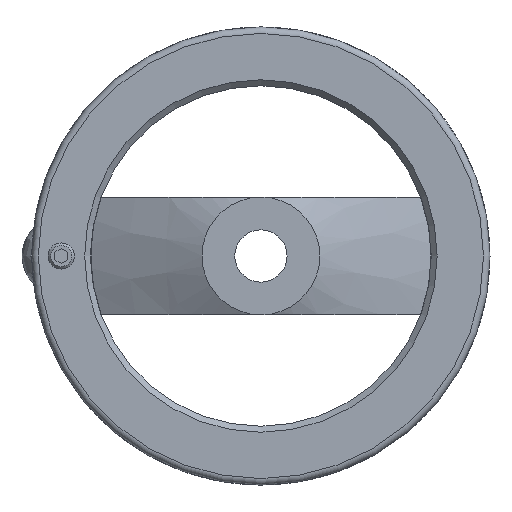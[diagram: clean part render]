
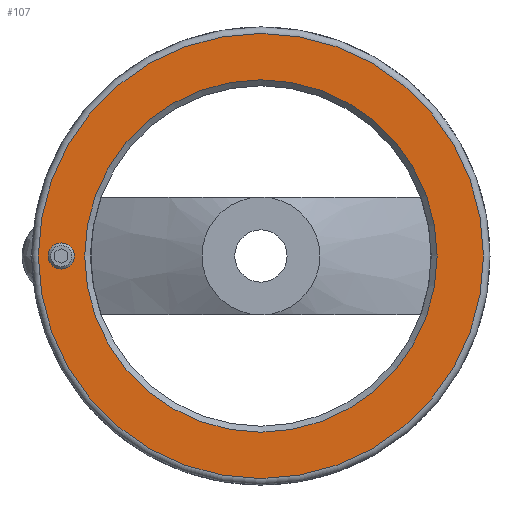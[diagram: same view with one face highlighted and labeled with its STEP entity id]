
A CAD part, left-side view. The second image highlights one B-rep face of the part: STEP entity #107.
In plain terms, the highlighted planar face has unit normal (-1, 0, 0).
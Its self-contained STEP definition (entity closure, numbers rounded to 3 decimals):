
#107 = ADVANCED_FACE( '', ( #199, #200, #201 ), #202, .T. );
#199 = FACE_OUTER_BOUND( '', #335, .T. );
#200 = FACE_BOUND( '', #336, .T. );
#201 = FACE_BOUND( '', #337, .T. );
#202 = PLANE( '', #338 );
#335 = EDGE_LOOP( '', ( #554 ) );
#336 = EDGE_LOOP( '', ( #555 ) );
#337 = EDGE_LOOP( '', ( #556 ) );
#338 = AXIS2_PLACEMENT_3D( '', #557, #558, #559 );
#554 = ORIENTED_EDGE( '', *, *, #657, .T. );
#555 = ORIENTED_EDGE( '', *, *, #624, .T. );
#556 = ORIENTED_EDGE( '', *, *, #658, .F. );
#557 = CARTESIAN_POINT( '', ( 19.5, -53.833, 0. ) );
#558 = DIRECTION( '', ( -1., 0., 0. ) );
#559 = DIRECTION( '', ( 0., 0., 1. ) );
#624 = EDGE_CURVE( '', #728, #728, #729, .T. );
#657 = EDGE_CURVE( '', #780, #780, #781, .T. );
#658 = EDGE_CURVE( '', #782, #782, #783, .T. );
#728 = VERTEX_POINT( '', #995 );
#729 = CIRCLE( '', #996, 4. );
#780 = VERTEX_POINT( '', #1059 );
#781 = CIRCLE( '', #1060, 68. );
#782 = VERTEX_POINT( '', #1061 );
#783 = CIRCLE( '', #1062, 53.833 );
#995 = CARTESIAN_POINT( '', ( 19.5, 61., -4. ) );
#996 = AXIS2_PLACEMENT_3D( '', #1105, #1106, #1107 );
#1059 = CARTESIAN_POINT( '', ( 19.5, 0., 68. ) );
#1060 = AXIS2_PLACEMENT_3D( '', #1177, #1178, #1179 );
#1061 = CARTESIAN_POINT( '', ( 19.5, 0., 53.833 ) );
#1062 = AXIS2_PLACEMENT_3D( '', #1180, #1181, #1182 );
#1105 = CARTESIAN_POINT( '', ( 19.5, 61., 0. ) );
#1106 = DIRECTION( '', ( 1., 0., 0. ) );
#1107 = DIRECTION( '', ( 0., 0., -1. ) );
#1177 = CARTESIAN_POINT( '', ( 19.5, 0., 0. ) );
#1178 = DIRECTION( '', ( -1., 0., 0. ) );
#1179 = DIRECTION( '', ( 0., 0., 1. ) );
#1180 = CARTESIAN_POINT( '', ( 19.5, 0., 0. ) );
#1181 = DIRECTION( '', ( -1., 0., 0. ) );
#1182 = DIRECTION( '', ( 0., 0., 1. ) );
